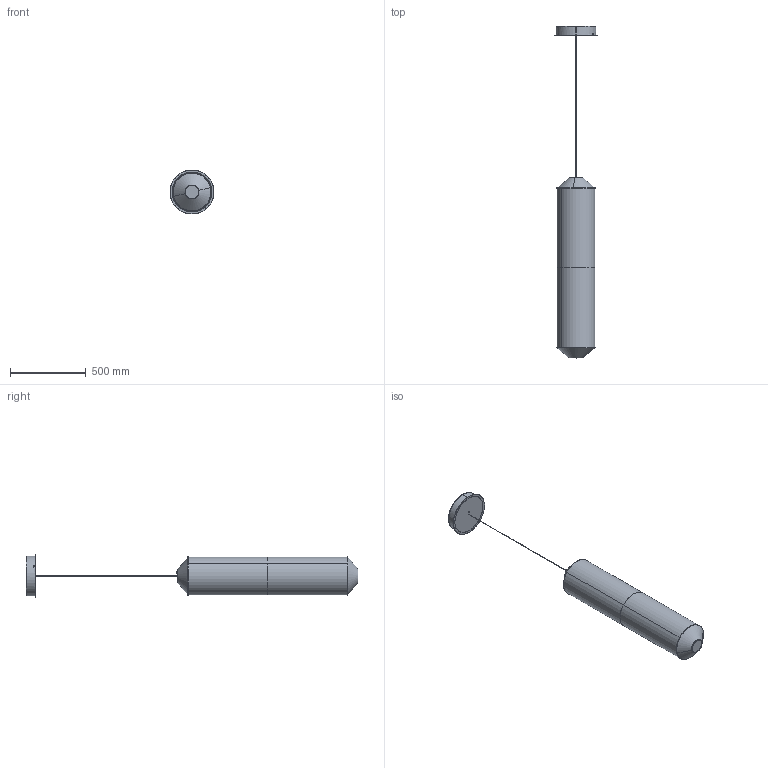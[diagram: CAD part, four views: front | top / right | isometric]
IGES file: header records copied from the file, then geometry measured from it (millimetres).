
Start section: SolidWorks IGES file using analytic representation for surfaces
Global section: file name: C:\Users\bernat.bisbal\Desktop\3D TEKIÒ WEB\TEKVP2.IGS; native system: SolidWorks 2016; preprocessor: SolidWorks 2016; author: bernat.bisbal; date: 180702.145258; units: millimetre
Bounding box: 290 x 2189.01 x 290 mm (x, y, z)
Surface area: 2256903.3 mm2 (no closed solid volume)
Topology: 0 solids, 0 shells, 176 faces, 3929 edges, 3929 vertices
Faces by surface type: revolution 114, bspline 62
